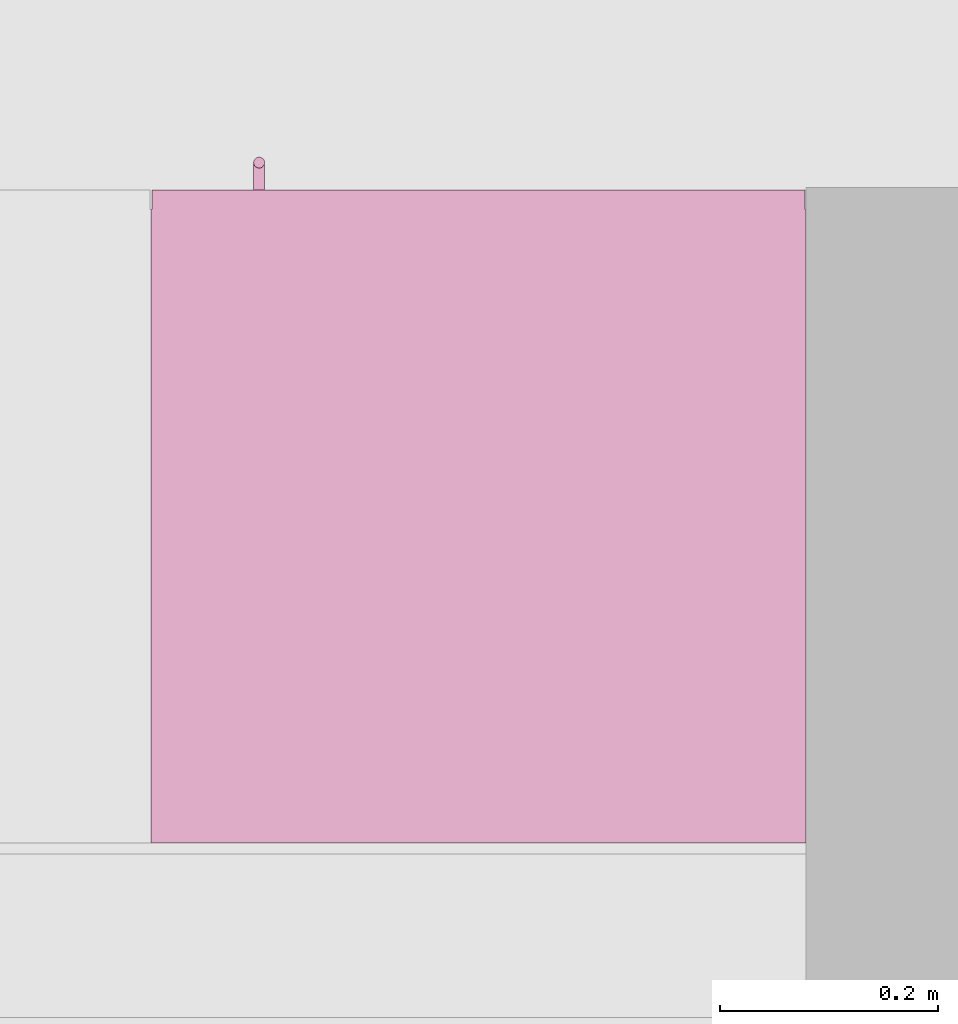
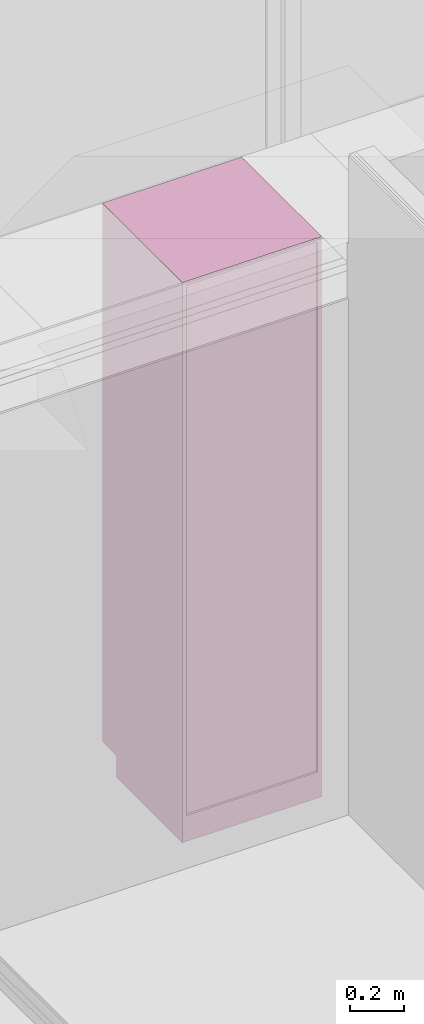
# One storey, part 33 of 34: 1 furniture element.
"""IFC4 building model written with IfcOpenShell, lengths in millimetres."""

from ifc_helpers import new_model, entity, si_unit, converted_unit, derived_unit, direction, frame, origin_with_axes, place, context, subcontext, project, spatial, polygons, source, transform, mapped, type_object, element, save


model = new_model("IFC4")

# Units and contexts
model_context = context("Model", 3, precision=0.01, world=origin_with_axes(), true_north=direction((0.0, 1.0)))
body_context = subcontext(model_context, "Body", "Model", "MODEL_VIEW")
ifc_project = project(units=[si_unit("LENGTHUNIT", "METRE", prefix="MILLI"), si_unit("AREAUNIT", "SQUARE_METRE"), si_unit("VOLUMEUNIT", "CUBIC_METRE"), converted_unit("PLANEANGLEUNIT", "DEGREE", entity("IfcPlaneAngleMeasure", 0.0174532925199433), si_unit("PLANEANGLEUNIT", "RADIAN"), dimensions=[0, 0, 0, 0, 0, 0, 0]), converted_unit("TIMEUNIT", "Year", entity("IfcTimeMeasure", 31557600.0), si_unit("TIMEUNIT", "SECOND"), dimensions=[0, 0, 1, 0, 0, 0, 0]), si_unit("MASSUNIT", "GRAM", prefix="KILO"), si_unit("THERMODYNAMICTEMPERATUREUNIT", "DEGREE_CELSIUS"), si_unit("LUMINOUSINTENSITYUNIT", "LUMEN"), si_unit("ENERGYUNIT", "JOULE", prefix="MEGA"), derived_unit("THERMALCONDUCTANCEUNIT", [(si_unit("POWERUNIT", "WATT"), 1), (si_unit("LENGTHUNIT", "METRE"), -1), (si_unit("THERMODYNAMICTEMPERATUREUNIT", "KELVIN"), -1)]), derived_unit("SPECIFICHEATCAPACITYUNIT", [(si_unit("ENERGYUNIT", "JOULE"), 1), (si_unit("MASSUNIT", "GRAM", prefix="KILO"), -1), (si_unit("THERMODYNAMICTEMPERATUREUNIT", "KELVIN"), -1)]), derived_unit("MASSDENSITYUNIT", [(si_unit("MASSUNIT", "GRAM", prefix="KILO"), 1), (si_unit("VOLUMEUNIT", "CUBIC_METRE"), -1)])], contexts=[model_context])

# Site, building, storey
site_placement = place(None, origin_with_axes())
site = spatial("IfcSite", under=ifc_project, at=site_placement, Name="Gelände", CompositionType="ELEMENT")
building_placement = place(site_placement, origin_with_axes())
building = spatial("IfcBuilding", under=site, at=building_placement, Name="Gebäude", CompositionType="ELEMENT")
storey_placement = place(building_placement, frame((0.0, 0.0, 5799.999999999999), z_axis=(0.0, 0.0, 1.0), x_axis=(1.0, 0.0, 0.0)))
storey = spatial("IfcBuildingStorey", under=building, at=storey_placement, Name="2.OG", CompositionType="ELEMENT", Elevation=5800.0)

# Furniture
furniture_type = type_object("IfcFurnitureType", Name="Stehender Schrank Block 27", AssemblyPlace="NOTDEFINED", PredefinedType="NOTDEFINED")
shared_shape = source(origin_with_axes(), body_context, "Body", "Tessellation", [
    polygons([(501.8682408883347, -597.9999999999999, 1377.799012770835), (502.7101007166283, -597.9999999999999, 1377.573437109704), (503.4999999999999, -597.9999999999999, 1377.205101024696), (504.2139380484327, -597.9999999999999, 1376.705196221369), (504.8302222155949, -597.9999999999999, 1376.088912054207), (505.3301270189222, -597.9999999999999, 1375.374974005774), (505.6984631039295, -597.9999999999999, 1374.585074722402), (505.924038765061, -597.9999999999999, 1373.743214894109), (506.0, -597.9999999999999, 1372.874974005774), (505.924038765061, -597.9999999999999, 1372.00673311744), (505.6984631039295, -597.9999999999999, 1371.164873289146), (505.3301270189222, -597.9999999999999, 1370.374974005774), (504.8302222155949, -597.9999999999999, 1369.661035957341), (504.2139380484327, -597.9999999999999, 1369.044751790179), (503.4999999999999, -597.9999999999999, 1368.544846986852), (502.7101007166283, -597.9999999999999, 1368.176510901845), (501.8682408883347, -597.9999999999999, 1367.950935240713), (501.0, -597.9999999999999, 1367.874974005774), (500.1317591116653, -597.9999999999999, 1367.950935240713), (499.2898992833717, -597.9999999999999, 1368.176510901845), (498.5, -597.9999999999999, 1368.544846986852), (497.7860619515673, -597.9999999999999, 1369.044751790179), (497.1697777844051, -597.9999999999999, 1369.661035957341), (496.6698729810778, -597.9999999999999, 1370.374974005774), (496.3015368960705, -597.9999999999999, 1371.164873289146), (496.075961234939, -597.9999999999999, 1372.00673311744), (496.0, -597.9999999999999, 1372.874974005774), (496.075961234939, -597.9999999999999, 1373.743214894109), (496.3015368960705, -597.9999999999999, 1374.585074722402), (496.6698729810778, -597.9999999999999, 1375.374974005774), (497.1697777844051, -597.9999999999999, 1376.088912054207), (497.7860619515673, -597.9999999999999, 1376.705196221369), (498.5, -597.9999999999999, 1377.205101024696), (499.2898992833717, -597.9999999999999, 1377.573437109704), (500.1317591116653, -597.9999999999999, 1377.799012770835), (501.0, -597.9999999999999, 1377.874974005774), (501.8682408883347, -622.9999999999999, 1377.799012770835), (502.7101007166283, -622.9999999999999, 1377.573437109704), (503.4999999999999, -622.9999999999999, 1377.205101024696), (504.2139380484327, -622.9999999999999, 1376.705196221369), (504.8302222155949, -622.9999999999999, 1376.088912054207), (505.3301270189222, -622.9999999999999, 1375.374974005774), (505.6984631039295, -622.9999999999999, 1374.585074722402), (505.924038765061, -622.9999999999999, 1373.743214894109), (506.0, -622.9999999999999, 1372.874974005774), (505.924038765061, -622.9999999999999, 1372.00673311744), (505.6984631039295, -622.9999999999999, 1371.164873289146), (505.3301270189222, -622.9999999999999, 1370.374974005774), (504.8302222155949, -622.9999999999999, 1369.661035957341), (504.2139380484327, -622.9999999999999, 1369.044751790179), (503.4999999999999, -622.9999999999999, 1368.544846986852), (502.7101007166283, -622.9999999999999, 1368.176510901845), (501.8682408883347, -622.9999999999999, 1367.950935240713), (501.0, -622.9999999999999, 1367.874974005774), (500.1317591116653, -622.9999999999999, 1367.950935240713), (499.2898992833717, -622.9999999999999, 1368.176510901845), (498.5, -622.9999999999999, 1368.544846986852), (497.7860619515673, -622.9999999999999, 1369.044751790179), (497.1697777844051, -622.9999999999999, 1369.661035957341), (496.6698729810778, -622.9999999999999, 1370.374974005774), (496.3015368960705, -622.9999999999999, 1371.164873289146), (496.075961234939, -622.9999999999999, 1372.00673311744), (496.0, -622.9999999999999, 1372.874974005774), (496.075961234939, -622.9999999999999, 1373.743214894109), (496.3015368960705, -622.9999999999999, 1374.585074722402), (496.6698729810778, -622.9999999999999, 1375.374974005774), (497.1697777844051, -622.9999999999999, 1376.088912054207), (497.7860619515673, -622.9999999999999, 1376.705196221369), (498.5, -622.9999999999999, 1377.205101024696), (499.2898992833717, -622.9999999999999, 1377.573437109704), (500.1317591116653, -622.9999999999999, 1377.799012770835), (501.0, -622.9999999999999, 1377.874974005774)], [[[1, 2, 3, 4, 5, 6, 7, 8, 9, 10, 11, 12, 13, 14, 15, 16, 17, 18, 19, 20, 21, 22, 23, 24, 25, 26, 27, 28, 29, 30, 31, 32, 33, 34, 35, 36]], [[2, 1, 37, 38]], [[3, 2, 38, 39]], [[4, 3, 39, 40]], [[5, 4, 40, 41]], [[6, 5, 41, 42]], [[7, 6, 42, 43]], [[8, 7, 43, 44]], [[9, 8, 44, 45]], [[10, 9, 45, 46]], [[11, 10, 46, 47]], [[12, 11, 47, 48]], [[13, 12, 48, 49]], [[14, 13, 49, 50]], [[15, 14, 50, 51]], [[16, 15, 51, 52]], [[17, 16, 52, 53]], [[18, 17, 53, 54]], [[19, 18, 54, 55]], [[20, 19, 55, 56]], [[21, 20, 56, 57]], [[22, 21, 57, 58]], [[23, 22, 58, 59]], [[24, 23, 59, 60]], [[25, 24, 60, 61]], [[26, 25, 61, 62]], [[27, 26, 62, 63]], [[28, 27, 63, 64]], [[29, 28, 64, 65]], [[30, 29, 65, 66]], [[31, 30, 66, 67]], [[32, 31, 67, 68]], [[33, 32, 68, 69]], [[34, 33, 69, 70]], [[35, 34, 70, 71]], [[36, 35, 71, 72]], [[1, 36, 72, 37]], [[37, 72, 71, 70, 69, 68, 67, 66, 65, 64, 63, 62, 61, 60, 59, 58, 57, 56, 55, 54, 53, 52, 51, 50, 49, 48, 47, 46, 45, 44, 43, 42, 41, 40, 39, 38]]], closed=True),
    polygons([(501.8682408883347, -597.9999999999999, 1274.200935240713), (501.0, -597.9999999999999, 1274.124974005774), (500.1317591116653, -597.9999999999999, 1274.200935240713), (499.2898992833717, -597.9999999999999, 1274.426510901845), (498.5, -597.9999999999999, 1274.794846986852), (497.7860619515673, -597.9999999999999, 1275.294751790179), (497.1697777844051, -597.9999999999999, 1275.911035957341), (496.6698729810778, -597.9999999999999, 1276.624974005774), (496.3015368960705, -597.9999999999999, 1277.414873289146), (496.075961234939, -597.9999999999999, 1278.25673311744), (496.0, -597.9999999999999, 1279.124974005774), (496.075961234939, -597.9999999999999, 1279.993214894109), (496.3015368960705, -597.9999999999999, 1280.835074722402), (496.6698729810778, -597.9999999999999, 1281.624974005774), (497.1697777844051, -597.9999999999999, 1282.338912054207), (497.7860619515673, -597.9999999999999, 1282.955196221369), (498.5, -597.9999999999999, 1283.455101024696), (499.2898992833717, -597.9999999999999, 1283.823437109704), (500.1317591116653, -597.9999999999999, 1284.049012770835), (501.0, -597.9999999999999, 1284.124974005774), (501.8682408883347, -597.9999999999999, 1284.049012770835), (502.7101007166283, -597.9999999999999, 1283.823437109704), (503.4999999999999, -597.9999999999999, 1283.455101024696), (504.2139380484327, -597.9999999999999, 1282.955196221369), (504.8302222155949, -597.9999999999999, 1282.338912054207), (505.3301270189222, -597.9999999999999, 1281.624974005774), (505.6984631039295, -597.9999999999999, 1280.835074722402), (505.924038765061, -597.9999999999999, 1279.993214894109), (506.0, -597.9999999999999, 1279.124974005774), (505.924038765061, -597.9999999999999, 1278.25673311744), (505.6984631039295, -597.9999999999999, 1277.414873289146), (505.3301270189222, -597.9999999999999, 1276.624974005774), (504.8302222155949, -597.9999999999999, 1275.911035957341), (504.2139380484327, -597.9999999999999, 1275.294751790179), (503.4999999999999, -597.9999999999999, 1274.794846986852), (502.7101007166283, -597.9999999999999, 1274.426510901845), (501.8682408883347, -622.9999999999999, 1274.200935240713), (501.0, -622.9999999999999, 1274.124974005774), (500.1317591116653, -622.9999999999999, 1274.200935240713), (499.2898992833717, -622.9999999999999, 1274.426510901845), (498.5, -622.9999999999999, 1274.794846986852), (497.7860619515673, -622.9999999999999, 1275.294751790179), (497.1697777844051, -622.9999999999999, 1275.911035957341), (496.6698729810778, -622.9999999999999, 1276.624974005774), (496.3015368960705, -622.9999999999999, 1277.414873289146), (496.075961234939, -622.9999999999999, 1278.25673311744), (496.0, -622.9999999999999, 1279.124974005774), (496.075961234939, -622.9999999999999, 1279.993214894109), (496.3015368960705, -622.9999999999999, 1280.835074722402), (496.6698729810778, -622.9999999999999, 1281.624974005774), (497.1697777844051, -622.9999999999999, 1282.338912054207), (497.7860619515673, -622.9999999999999, 1282.955196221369), (498.5, -622.9999999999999, 1283.455101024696), (499.2898992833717, -622.9999999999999, 1283.823437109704), (500.1317591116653, -622.9999999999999, 1284.049012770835), (501.0, -622.9999999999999, 1284.124974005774), (501.8682408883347, -622.9999999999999, 1284.049012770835), (502.7101007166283, -622.9999999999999, 1283.823437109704), (503.4999999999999, -622.9999999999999, 1283.455101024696), (504.2139380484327, -622.9999999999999, 1282.955196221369), (504.8302222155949, -622.9999999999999, 1282.338912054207), (505.3301270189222, -622.9999999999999, 1281.624974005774), (505.6984631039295, -622.9999999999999, 1280.835074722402), (505.924038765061, -622.9999999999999, 1279.993214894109), (506.0, -622.9999999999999, 1279.124974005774), (505.924038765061, -622.9999999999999, 1278.25673311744), (505.6984631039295, -622.9999999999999, 1277.414873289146), (505.3301270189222, -622.9999999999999, 1276.624974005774), (504.8302222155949, -622.9999999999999, 1275.911035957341), (504.2139380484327, -622.9999999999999, 1275.294751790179), (503.4999999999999, -622.9999999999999, 1274.794846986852), (502.7101007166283, -622.9999999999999, 1274.426510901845)], [[[1, 2, 3, 4, 5, 6, 7, 8, 9, 10, 11, 12, 13, 14, 15, 16, 17, 18, 19, 20, 21, 22, 23, 24, 25, 26, 27, 28, 29, 30, 31, 32, 33, 34, 35, 36]], [[1, 37, 38, 2]], [[2, 38, 39, 3]], [[3, 39, 40, 4]], [[4, 40, 41, 5]], [[5, 41, 42, 6]], [[6, 42, 43, 7]], [[7, 43, 44, 8]], [[8, 44, 45, 9]], [[9, 45, 46, 10]], [[10, 46, 47, 11]], [[11, 47, 48, 12]], [[12, 48, 49, 13]], [[13, 49, 50, 14]], [[14, 50, 51, 15]], [[15, 51, 52, 16]], [[16, 52, 53, 17]], [[17, 53, 54, 18]], [[18, 54, 55, 19]], [[19, 55, 56, 20]], [[20, 56, 57, 21]], [[21, 57, 58, 22]], [[22, 58, 59, 23]], [[23, 59, 60, 24]], [[24, 60, 61, 25]], [[25, 61, 62, 26]], [[26, 62, 63, 27]], [[27, 63, 64, 28]], [[28, 64, 65, 29]], [[29, 65, 66, 30]], [[30, 66, 67, 31]], [[31, 67, 68, 32]], [[32, 68, 69, 33]], [[33, 69, 70, 34]], [[34, 70, 71, 35]], [[35, 71, 72, 36]], [[36, 72, 37, 1]], [[37, 72, 71, 70, 69, 68, 67, 66, 65, 64, 63, 62, 61, 60, 59, 58, 57, 56, 55, 54, 53, 52, 51, 50, 49, 48, 47, 46, 45, 44, 43, 42, 41, 40, 39, 38]]], closed=True),
    polygons([(501.8682408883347, -618.0759612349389, 1250.999974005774), (502.7101007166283, -618.3015368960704, 1250.999974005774), (503.4999999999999, -618.6698729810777, 1250.999974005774), (504.2139380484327, -619.1697777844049, 1250.999974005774), (504.8302222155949, -619.7860619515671, 1250.999974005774), (505.3301270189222, -620.4999999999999, 1250.999974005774), (505.6984631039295, -621.2898992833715, 1250.999974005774), (505.924038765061, -622.1317591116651, 1250.999974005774), (506.0, -622.9999999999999, 1250.999974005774), (505.924038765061, -623.8682408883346, 1250.999974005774), (505.6984631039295, -624.7101007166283, 1250.999974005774), (505.3301270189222, -625.4999999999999, 1250.999974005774), (504.8302222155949, -626.2139380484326, 1250.999974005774), (504.2139380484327, -626.8302222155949, 1250.999974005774), (503.4999999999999, -627.3301270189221, 1250.999974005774), (502.7101007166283, -627.6984631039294, 1250.999974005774), (501.8682408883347, -627.924038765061, 1250.999974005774), (501.0, -627.9999999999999, 1250.999974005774), (500.1317591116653, -627.924038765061, 1250.999974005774), (499.2898992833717, -627.6984631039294, 1250.999974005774), (498.5, -627.3301270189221, 1250.999974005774), (497.7860619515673, -626.8302222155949, 1250.999974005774), (497.1697777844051, -626.2139380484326, 1250.999974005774), (496.6698729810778, -625.4999999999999, 1250.999974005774), (496.3015368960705, -624.7101007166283, 1250.999974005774), (496.075961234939, -623.8682408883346, 1250.999974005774), (496.0, -622.9999999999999, 1250.999974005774), (496.075961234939, -622.1317591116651, 1250.999974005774), (496.3015368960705, -621.2898992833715, 1250.999974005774), (496.6698729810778, -620.4999999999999, 1250.999974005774), (497.1697777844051, -619.7860619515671, 1250.999974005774), (497.7860619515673, -619.1697777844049, 1250.999974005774), (498.5, -618.6698729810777, 1250.999974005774), (499.2898992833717, -618.3015368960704, 1250.999974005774), (500.1317591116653, -618.0759612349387, 1250.999974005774), (501.0, -617.9999999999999, 1250.999974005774), (501.8682408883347, -618.0759612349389, 1400.999974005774), (502.7101007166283, -618.3015368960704, 1400.999974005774), (503.5000000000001, -618.6698729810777, 1400.999974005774), (504.2139380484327, -619.1697777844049, 1400.999974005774), (504.8302222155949, -619.7860619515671, 1400.999974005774), (505.3301270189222, -620.4999999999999, 1400.999974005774), (505.6984631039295, -621.2898992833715, 1400.999974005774), (505.9240387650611, -622.1317591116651, 1400.999974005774), (506.0, -622.9999999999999, 1400.999974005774), (505.9240387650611, -623.8682408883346, 1400.999974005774), (505.6984631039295, -624.7101007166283, 1400.999974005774), (505.3301270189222, -625.4999999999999, 1400.999974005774), (504.8302222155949, -626.2139380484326, 1400.999974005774), (504.2139380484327, -626.8302222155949, 1400.999974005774), (503.5000000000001, -627.3301270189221, 1400.999974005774), (502.7101007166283, -627.6984631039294, 1400.999974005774), (501.8682408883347, -627.924038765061, 1400.999974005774), (501.0, -627.9999999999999, 1400.999974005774), (500.1317591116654, -627.924038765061, 1400.999974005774), (499.2898992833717, -627.6984631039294, 1400.999974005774), (498.5, -627.3301270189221, 1400.999974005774), (497.7860619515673, -626.8302222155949, 1400.999974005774), (497.1697777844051, -626.2139380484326, 1400.999974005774), (496.6698729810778, -625.4999999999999, 1400.999974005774), (496.3015368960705, -624.7101007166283, 1400.999974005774), (496.075961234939, -623.8682408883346, 1400.999974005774), (496.0, -622.9999999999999, 1400.999974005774), (496.075961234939, -622.1317591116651, 1400.999974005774), (496.3015368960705, -621.2898992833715, 1400.999974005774), (496.6698729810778, -620.4999999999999, 1400.999974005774), (497.1697777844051, -619.7860619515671, 1400.999974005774), (497.7860619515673, -619.1697777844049, 1400.999974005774), (498.5, -618.6698729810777, 1400.999974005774), (499.2898992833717, -618.3015368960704, 1400.999974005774), (500.1317591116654, -618.0759612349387, 1400.999974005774), (501.0, -617.9999999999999, 1400.999974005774)], [[[1, 2, 3, 4, 5, 6, 7, 8, 9, 10, 11, 12, 13, 14, 15, 16, 17, 18, 19, 20, 21, 22, 23, 24, 25, 26, 27, 28, 29, 30, 31, 32, 33, 34, 35, 36]], [[2, 1, 37, 38]], [[3, 2, 38, 39]], [[4, 3, 39, 40]], [[5, 4, 40, 41]], [[6, 5, 41, 42]], [[7, 6, 42, 43]], [[8, 7, 43, 44]], [[9, 8, 44, 45]], [[10, 9, 45, 46]], [[11, 10, 46, 47]], [[12, 11, 47, 48]], [[13, 12, 48, 49]], [[14, 13, 49, 50]], [[15, 14, 50, 51]], [[16, 15, 51, 52]], [[17, 16, 52, 53]], [[18, 17, 53, 54]], [[19, 18, 54, 55]], [[20, 19, 55, 56]], [[21, 20, 56, 57]], [[22, 21, 57, 58]], [[23, 22, 58, 59]], [[24, 23, 59, 60]], [[25, 24, 60, 61]], [[26, 25, 61, 62]], [[27, 26, 62, 63]], [[28, 27, 63, 64]], [[29, 28, 64, 65]], [[30, 29, 65, 66]], [[31, 30, 66, 67]], [[32, 31, 67, 68]], [[33, 32, 68, 69]], [[34, 33, 69, 70]], [[35, 34, 70, 71]], [[36, 35, 71, 72]], [[1, 36, 72, 37]], [[37, 72, 71, 70, 69, 68, 67, 66, 65, 64, 63, 62, 61, 60, 59, 58, 57, 56, 55, 54, 53, 52, 51, 50, 49, 48, 47, 46, 45, 44, 43, 42, 41, 40, 39, 38]]], closed=True),
    polygons([(1.0, -580.0, 101.0), (599.0, -580.0, 101.0), (599.0, -598.0, 101.0), (1.0, -598.0, 101.0), (1.0, -579.9999999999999, 2548.999948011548), (599.0, -579.9999999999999, 2548.999948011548), (599.0, -597.9999999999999, 2548.999948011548), (1.0, -597.9999999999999, 2548.999948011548)], [[[1, 2, 3, 4]], [[1, 5, 6, 2]], [[2, 6, 7, 3]], [[4, 3, 7, 8]], [[5, 1, 4, 8]], [[6, 5, 8, 7]]], closed=True),
    polygons([(18.0, -580.0, 100.0), (582.0, -580.0, 100.0), (582.0, -580.0, 118.0), (18.0, -580.0, 118.0), (18.0, 0.0, 100.0), (582.0, 0.0, 100.0), (582.0, 0.0, 118.0), (18.0, 0.0, 118.0)], [[[1, 2, 3, 4]], [[1, 5, 6, 2]], [[2, 6, 7, 3]], [[4, 3, 7, 8]], [[5, 1, 4, 8]], [[6, 5, 8, 7]]], closed=True),
    polygons([(18.0, -580.0, 2531.999948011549), (582.0, -580.0, 2531.999948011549), (582.0, -580.0, 2549.999948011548), (18.0, -580.0, 2549.999948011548), (18.0, 0.0, 2531.999948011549), (582.0, 0.0, 2531.999948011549), (582.0, 0.0, 2549.999948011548), (18.0, 0.0, 2549.999948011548)], [[[1, 2, 3, 4]], [[1, 5, 6, 2]], [[2, 6, 7, 3]], [[4, 3, 7, 8]], [[5, 1, 4, 8]], [[6, 5, 8, 7]]], closed=True),
    polygons([(0.0, 0.0, 100.0), (0.0, -580.0, 100.0), (0.0, -580.0, 2549.999948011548), (0.0, 0.0, 2549.999948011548), (18.0, 0.0, 100.0), (18.0, -580.0, 100.0), (18.0, -580.0, 2549.999948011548), (18.0, 0.0, 2549.999948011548)], [[[1, 2, 3, 4]], [[1, 5, 6, 2]], [[2, 6, 7, 3]], [[4, 3, 7, 8]], [[5, 1, 4, 8]], [[6, 5, 8, 7]]], closed=True),
    polygons([(600.0, -580.0, 100.0), (600.0, 0.0, 100.0), (600.0, 0.0, 2549.999948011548), (600.0, -580.0, 2549.999948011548), (582.0, -580.0, 100.0), (582.0, 0.0, 100.0), (582.0, 0.0, 2549.999948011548), (582.0, -580.0, 2549.999948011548)], [[[1, 2, 3, 4]], [[1, 5, 6, 2]], [[2, 6, 7, 3]], [[4, 3, 7, 8]], [[5, 1, 4, 8]], [[6, 5, 8, 7]]], closed=True),
    polygons([(582.0, -9.0, 118.0), (18.00000000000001, -9.0, 118.0), (18.00000000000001, -9.0, 2531.999948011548), (582.0, -9.0, 2531.999948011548), (582.0, -18.0, 118.0), (18.00000000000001, -18.0, 118.0), (18.00000000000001, -18.0, 2531.999948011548), (582.0, -18.0, 2531.999948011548)], [[[1, 2, 3, 4]], [[1, 5, 6, 2]], [[2, 6, 7, 3]], [[4, 3, 7, 8]], [[5, 1, 4, 8]], [[6, 5, 8, 7]]], closed=True),
    polygons([(0.0, -490.0, 0.0), (600.0, -490.0, 0.0), (600.0, -490.0, 100.0), (0.0, -490.0, 100.0), (0.0, 0.0, 0.0), (600.0, 0.0, 0.0), (600.0, 0.0, 100.0), (0.0, 0.0, 100.0)], [[[1, 2, 3, 4]], [[1, 5, 6, 2]], [[2, 6, 7, 3]], [[4, 3, 7, 8]], [[5, 1, 4, 8]], [[6, 5, 8, 7]]], closed=True),
])
furniture_placement = place(storey_placement, frame((11928.99744477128, 34847.59728131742, 99.99999999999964), z_axis=(0.0, 0.0, 1.0), x_axis=(-1.0, 0.0, 0.0)))
element("IfcFurniture", 1, at=furniture_placement, inside=storey, type_object=furniture_type, Name="Möbel-021", PredefinedType="NOTDEFINED", context=body_context, shape_type="MappedRepresentation", body=[
    mapped(shared_shape, transform((0.0, 0.0, 0.0))),
])

save(model, "model.ifc")
